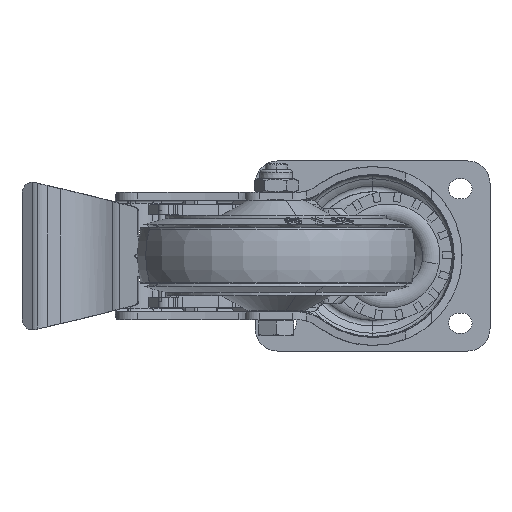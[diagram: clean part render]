
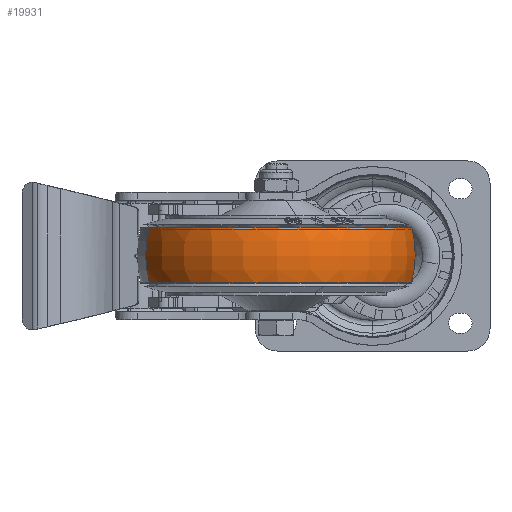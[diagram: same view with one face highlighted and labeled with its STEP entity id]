
A CAD part, front view. The second image highlights one B-rep face of the part: STEP entity #19931.
In plain terms, the highlighted toroidal (fillet/blend) face has major radius 20.875 mm and minor radius 41.625 mm.
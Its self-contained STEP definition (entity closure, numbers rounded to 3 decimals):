
#1581 = DIRECTION ( 'NONE',  ( 0., 1., 0. ) ) ;
#8037 = CARTESIAN_POINT ( 'NONE',  ( 12.452, 0., 0. ) ) ;
#12623 = AXIS2_PLACEMENT_3D ( 'NONE', #29726, #54376, #67906 ) ;
#14322 = CARTESIAN_POINT ( 'NONE',  ( 0., 0., 20.875 ) ) ;
#14461 = CIRCLE ( 'NONE', #69479, 41.625 ) ;
#15843 = CARTESIAN_POINT ( 'NONE',  ( 0., 0., -20.875 ) ) ;
#15849 = VERTEX_POINT ( 'NONE', #61693 ) ;
#19931 = ADVANCED_FACE ( 'NONE', ( #23874 ), #37676, .T. ) ;
#23874 = FACE_OUTER_BOUND ( 'NONE', #81269, .T. ) ;
#24884 = ORIENTED_EDGE ( 'NONE', *, *, #27523, .T. ) ;
#25483 = ORIENTED_EDGE ( 'NONE', *, *, #43765, .T. ) ;
#26217 = DIRECTION ( 'NONE',  ( 0., 0., 1. ) ) ;
#27523 = EDGE_CURVE ( 'NONE', #28844, #29890, #34803, .T. ) ;
#28844 = VERTEX_POINT ( 'NONE', #49344 ) ;
#29726 = CARTESIAN_POINT ( 'NONE',  ( -12.452, 0., 0. ) ) ;
#29890 = VERTEX_POINT ( 'NONE', #69878 ) ;
#34803 = CIRCLE ( 'NONE', #45276, 60.594 ) ;
#35423 = AXIS2_PLACEMENT_3D ( 'NONE', #14322, #1581, #26217 ) ;
#36760 = ORIENTED_EDGE ( 'NONE', *, *, #43247, .F. ) ;
#37676 = TOROIDAL_SURFACE ( 'NONE', #41634, 20.875, 41.625 ) ;
#41634 = AXIS2_PLACEMENT_3D ( 'NONE', #42356, #66618, #73984 ) ;
#42356 = CARTESIAN_POINT ( 'NONE',  ( 0., 0., 0. ) ) ;
#43247 = EDGE_CURVE ( 'NONE', #15849, #29890, #66929, .T. ) ;
#43765 = EDGE_CURVE ( 'NONE', #54994, #28844, #14461, .T. ) ;
#43938 = CIRCLE ( 'NONE', #12623, 60.594 ) ;
#45276 = AXIS2_PLACEMENT_3D ( 'NONE', #8037, #51554, #63476 ) ;
#46607 = DIRECTION ( 'NONE',  ( 0., -1., 0. ) ) ;
#49344 = CARTESIAN_POINT ( 'NONE',  ( 12.452, 0., -60.594 ) ) ;
#51554 = DIRECTION ( 'NONE',  ( -1., 0., 0. ) ) ;
#52182 = ORIENTED_EDGE ( 'NONE', *, *, #66634, .T. ) ;
#53600 = DIRECTION ( 'NONE',  ( 0., 0., -1. ) ) ;
#54376 = DIRECTION ( 'NONE',  ( 1., 0., 0. ) ) ;
#54994 = VERTEX_POINT ( 'NONE', #79258 ) ;
#61693 = CARTESIAN_POINT ( 'NONE',  ( -12.452, 0., 60.594 ) ) ;
#63476 = DIRECTION ( 'NONE',  ( 0., 0., 1. ) ) ;
#66618 = DIRECTION ( 'NONE',  ( 1., 0., 0. ) ) ;
#66634 = EDGE_CURVE ( 'NONE', #15849, #54994, #43938, .T. ) ;
#66929 = CIRCLE ( 'NONE', #35423, 41.625 ) ;
#67906 = DIRECTION ( 'NONE',  ( 0., 0., -1. ) ) ;
#69479 = AXIS2_PLACEMENT_3D ( 'NONE', #15843, #46607, #53600 ) ;
#69878 = CARTESIAN_POINT ( 'NONE',  ( 12.452, 0., 60.594 ) ) ;
#73984 = DIRECTION ( 'NONE',  ( 0., 0., -1. ) ) ;
#79258 = CARTESIAN_POINT ( 'NONE',  ( -12.452, 0., -60.594 ) ) ;
#81269 = EDGE_LOOP ( 'NONE', ( #36760, #52182, #25483, #24884 ) ) ;
